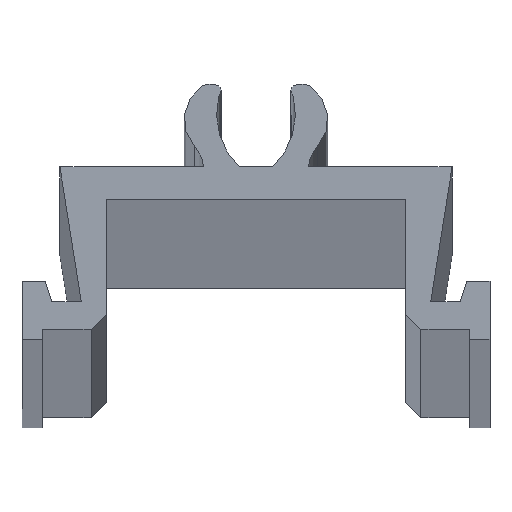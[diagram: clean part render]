
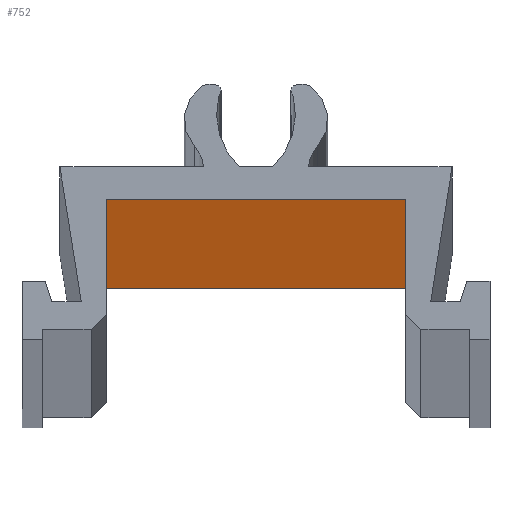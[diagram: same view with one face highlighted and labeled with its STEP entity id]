
A CAD part, top view. The second image highlights one B-rep face of the part: STEP entity #752.
In plain terms, the highlighted planar face has unit normal (0, -1, 0).
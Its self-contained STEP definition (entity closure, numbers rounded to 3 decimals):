
#86=FACE_OUTER_BOUND('',#124,.T.);
#124=EDGE_LOOP('',(#647,#648,#649,#650));
#166=LINE('',#1134,#250);
#181=LINE('',#1165,#265);
#208=LINE('',#1243,#292);
#209=LINE('',#1244,#293);
#250=VECTOR('',#918,2000.);
#265=VECTOR('',#939,11.8);
#292=VECTOR('',#1022,11.8);
#293=VECTOR('',#1023,2000.);
#329=VERTEX_POINT('',#1130);
#330=VERTEX_POINT('',#1132);
#343=VERTEX_POINT('',#1163);
#366=VERTEX_POINT('',#1242);
#418=EDGE_CURVE('',#329,#330,#166,.T.);
#433=EDGE_CURVE('',#343,#330,#181,.T.);
#472=EDGE_CURVE('',#366,#329,#208,.T.);
#473=EDGE_CURVE('',#366,#343,#209,.T.);
#647=ORIENTED_EDGE('',*,*,#472,.T.);
#648=ORIENTED_EDGE('',*,*,#418,.T.);
#649=ORIENTED_EDGE('',*,*,#433,.F.);
#650=ORIENTED_EDGE('',*,*,#473,.F.);
#714=PLANE('',#816);
#752=ADVANCED_FACE('',(#86),#714,.T.);
#816=AXIS2_PLACEMENT_3D('',#1241,#1020,#1021);
#918=DIRECTION('',(0.,0.,1.));
#939=DIRECTION('',(1.,0.,0.));
#1020=DIRECTION('center_axis',(0.,-1.,0.));
#1021=DIRECTION('ref_axis',(1.,0.,0.));
#1022=DIRECTION('',(1.,0.,0.));
#1023=DIRECTION('',(0.,0.,1.));
#1130=CARTESIAN_POINT('',(5.9,-0.387,0.));
#1132=CARTESIAN_POINT('',(5.9,-0.387,2000.));
#1134=CARTESIAN_POINT('',(5.9,-0.387,0.));
#1163=CARTESIAN_POINT('',(-5.9,-0.387,2000.));
#1165=CARTESIAN_POINT('',(-5.9,-0.387,2000.));
#1241=CARTESIAN_POINT('Origin',(-5.9,-0.387,0.));
#1242=CARTESIAN_POINT('',(-5.9,-0.387,0.));
#1243=CARTESIAN_POINT('',(-5.9,-0.387,0.));
#1244=CARTESIAN_POINT('',(-5.9,-0.387,0.));
